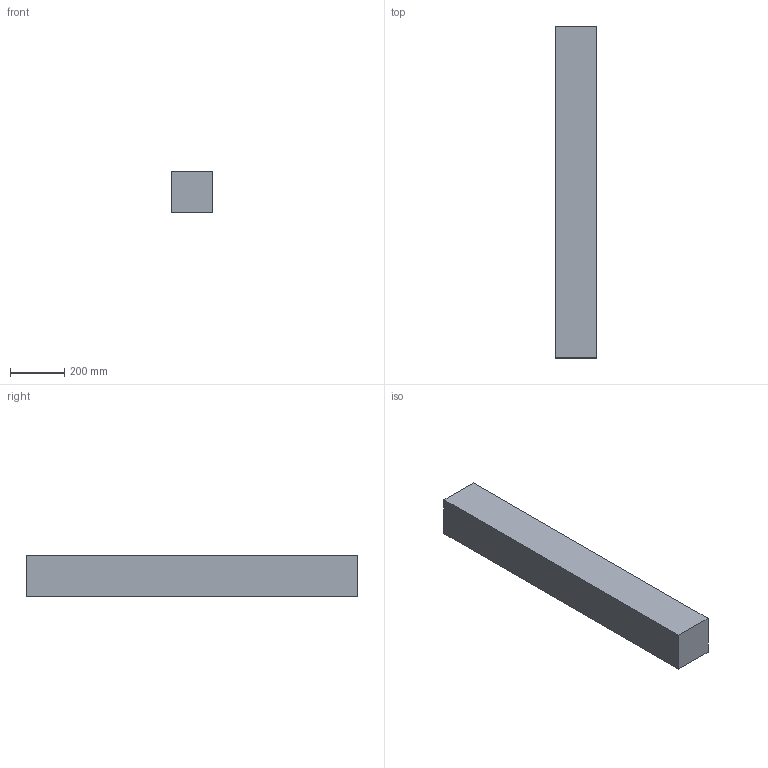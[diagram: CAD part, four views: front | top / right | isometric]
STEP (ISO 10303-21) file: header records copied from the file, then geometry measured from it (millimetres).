
FILE_DESCRIPTION(/* description */ (''),/* implementation_level */ '2;1');
FILE_NAME(/* name */ '6x6x48',/* time_stamp */ '2024-09-20T11:47:02-05:00',/* author */ (''),/* organization */ (''),/* preprocessor_version */ 'ST-DEVELOPER v19.2',/* originating_system */ 'Rhino 8.5',/* authorisation */ '');
FILE_SCHEMA (('CONFIG_CONTROL_DESIGN'));
Length unit declared in the file: inch
Products named in the file (1): Document
Bounding box: 152.4 x 1219.2 x 152.4 mm (x, y, z)
Volume: 28316846.6 mm3; surface area: 789675.8 mm2
Topology: 1 solids, 1 shells, 6 faces, 12 edges, 8 vertices
Faces by surface type: plane 6
Entity records: 226 total; most frequent: CARTESIAN_POINT 40, ORIENTED_EDGE 24, EDGE_CURVE 12, B_SPLINE_CURVE_WITH_KNOTS 12, DIRECTION 10, VERTEX_POINT 8, AXIS2_PLACEMENT_3D 8, ORGANIZATION 7
